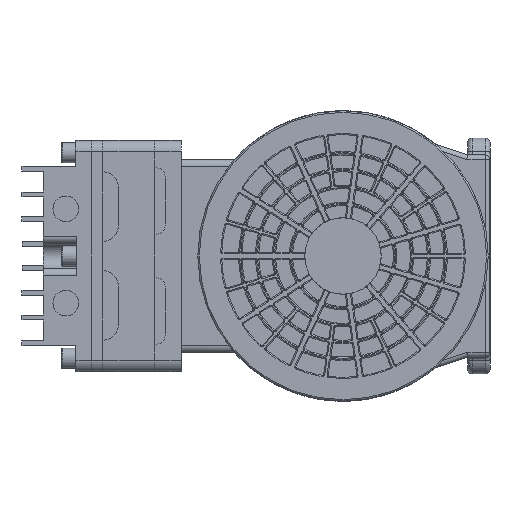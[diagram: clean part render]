
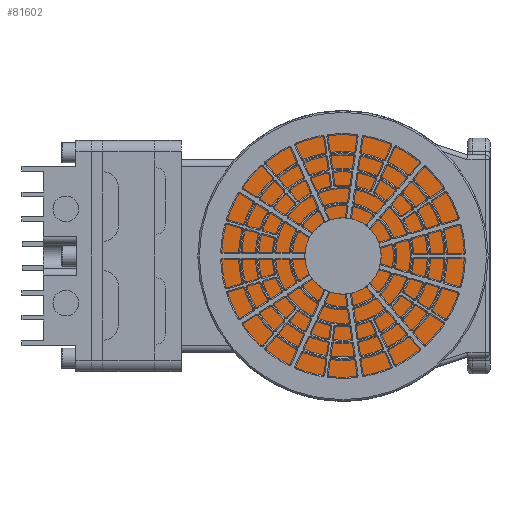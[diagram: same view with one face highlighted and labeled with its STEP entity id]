
A CAD part, left-side view. The second image highlights one B-rep face of the part: STEP entity #81602.
In plain terms, the highlighted planar face has unit normal (-1, 0, 0).
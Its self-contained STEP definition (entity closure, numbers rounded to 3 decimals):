
#9555=FACE_OUTER_BOUND('',#14684,.T.);
#14684=EDGE_LOOP('',(#57980));
#29013=CIRCLE('',#87137,63.696);
#37066=VERTEX_POINT('',#131675);
#44645=EDGE_CURVE('',#37066,#37066,#29013,.T.);
#57980=ORIENTED_EDGE('',*,*,#44645,.F.);
#80510=PLANE('',#87142);
#81602=ADVANCED_FACE('',(#9555),#80510,.T.);
#87137=AXIS2_PLACEMENT_3D('',#131677,#101596,#101597);
#87142=AXIS2_PLACEMENT_3D('',#131685,#101607,#101608);
#101596=DIRECTION('center_axis',(1.,0.,0.));
#101597=DIRECTION('ref_axis',(0.,1.,0.));
#101607=DIRECTION('center_axis',(-1.,0.,0.));
#101608=DIRECTION('ref_axis',(0.,0.,1.));
#131675=CARTESIAN_POINT('',(-130.,0.,63.696));
#131677=CARTESIAN_POINT('Origin',(-130.,0.,0.));
#131685=CARTESIAN_POINT('Origin',(-130.,0.,0.));
